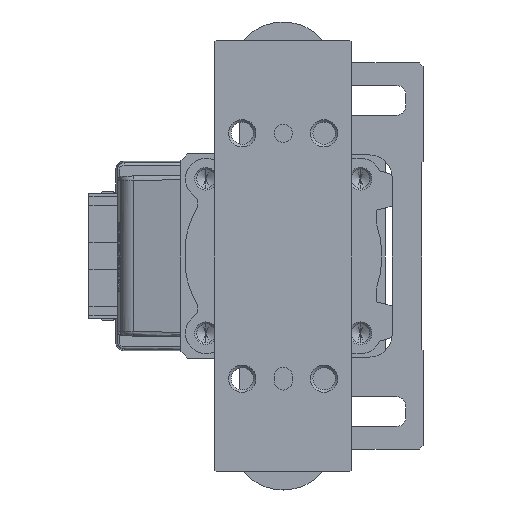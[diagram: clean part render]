
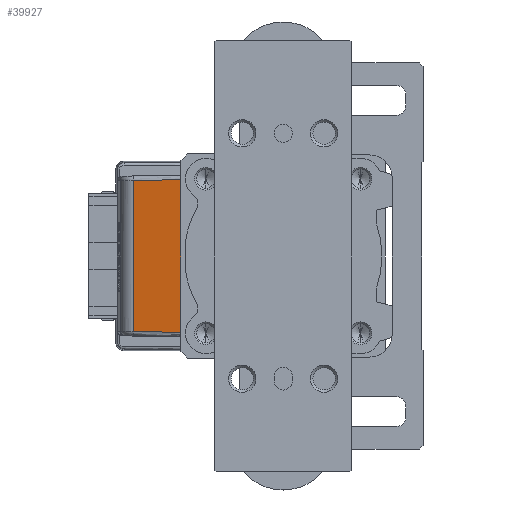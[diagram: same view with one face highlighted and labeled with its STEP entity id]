
A CAD part, left-side view. The second image highlights one B-rep face of the part: STEP entity #39927.
In plain terms, the highlighted planar face has unit normal (-0.985, 0.174, 0) as drawn and (0, 0.174, 0.985) by its records, which use the part's own axes.
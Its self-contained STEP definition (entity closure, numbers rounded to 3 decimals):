
#231 = VERTEX_POINT ( 'NONE', #29957 ) ;
#1406 = ORIENTED_EDGE ( 'NONE', *, *, #34188, .T. ) ;
#1412 = VECTOR ( 'NONE', #37231, 1000. ) ;
#2355 = DIRECTION ( 'NONE',  ( 0., -0.174, -0.985 ) ) ;
#4807 = EDGE_LOOP ( 'NONE', ( #17593, #6589, #6357, #1406 ) ) ;
#5686 = VECTOR ( 'NONE', #17760, 1000. ) ;
#6357 = ORIENTED_EDGE ( 'NONE', *, *, #13630, .T. ) ;
#6433 = VECTOR ( 'NONE', #28847, 1000. ) ;
#6589 = ORIENTED_EDGE ( 'NONE', *, *, #26754, .T. ) ;
#7369 = VECTOR ( 'NONE', #23014, 1000. ) ;
#8843 = CARTESIAN_POINT ( 'NONE',  ( 0., 21.26, -38.323 ) ) ;
#9479 = FACE_OUTER_BOUND ( 'NONE', #4807, .T. ) ;
#9915 = CARTESIAN_POINT ( 'NONE',  ( 16.617, 32.905, -40.376 ) ) ;
#11525 = VERTEX_POINT ( 'NONE', #32882 ) ;
#13586 = CARTESIAN_POINT ( 'NONE',  ( 16.617, 32.922, -40.379 ) ) ;
#13630 = EDGE_CURVE ( 'NONE', #231, #11525, #30878, .T. ) ;
#15132 = DIRECTION ( 'NONE',  ( 1., 0., 0. ) ) ;
#15749 = VERTEX_POINT ( 'NONE', #36024 ) ;
#15936 = PLANE ( 'NONE',  #38104 ) ;
#16154 = CARTESIAN_POINT ( 'NONE',  ( -16.825, 20.983, -38.274 ) ) ;
#17593 = ORIENTED_EDGE ( 'NONE', *, *, #22139, .T. ) ;
#17760 = DIRECTION ( 'NONE',  ( 1., 0., 0. ) ) ;
#21124 = LINE ( 'NONE', #30728, #1412 ) ;
#21725 = VERTEX_POINT ( 'NONE', #13586 ) ;
#22139 = EDGE_CURVE ( 'NONE', #21725, #15749, #21124, .T. ) ;
#23014 = DIRECTION ( 'NONE',  ( -0.017, 0.985, -0.174 ) ) ;
#26754 = EDGE_CURVE ( 'NONE', #15749, #231, #31997, .T. ) ;
#28847 = DIRECTION ( 'NONE',  ( -0.017, -0.985, 0.174 ) ) ;
#29957 = CARTESIAN_POINT ( 'NONE',  ( -16.825, 21., -38.277 ) ) ;
#30728 = CARTESIAN_POINT ( 'NONE',  ( -17.568, 32.922, -40.379 ) ) ;
#30878 = LINE ( 'NONE', #36543, #5686 ) ;
#31997 = LINE ( 'NONE', #16154, #6433 ) ;
#32251 = LINE ( 'NONE', #9915, #7369 ) ;
#32882 = CARTESIAN_POINT ( 'NONE',  ( 16.825, 21., -38.277 ) ) ;
#34188 = EDGE_CURVE ( 'NONE', #11525, #21725, #32251, .T. ) ;
#36024 = CARTESIAN_POINT ( 'NONE',  ( -16.617, 32.922, -40.379 ) ) ;
#36543 = CARTESIAN_POINT ( 'NONE',  ( 0., 21., -38.277 ) ) ;
#37231 = DIRECTION ( 'NONE',  ( -1., 0., 0. ) ) ;
#38104 = AXIS2_PLACEMENT_3D ( 'NONE', #8843, #2355, #15132 ) ;
#39927 = ADVANCED_FACE ( 'NONE', ( #9479 ), #15936, .F. ) ;
